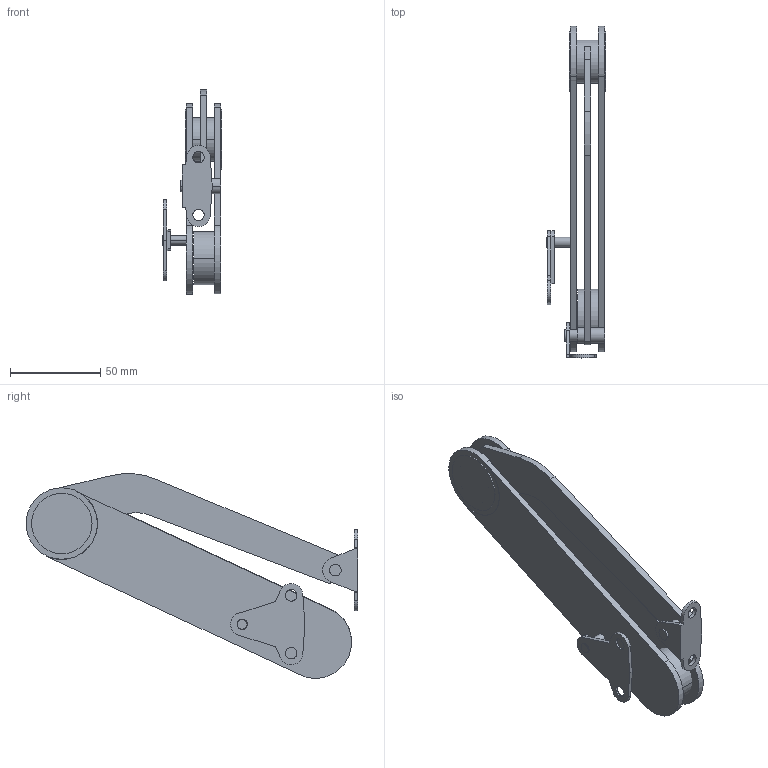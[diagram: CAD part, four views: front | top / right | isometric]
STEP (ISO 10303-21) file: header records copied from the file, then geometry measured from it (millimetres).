
FILE_DESCRIPTION(('STEP AP242'),'1');
FILE_NAME('OPO_50.694.23_volu_schn_3d.stp','2025-11-08T20:21:42',(' '),(' '),'Spatial InterOp 3D',' ',' ');
FILE_SCHEMA(('AP242_MANAGED_MODEL_BASED_3D_ENGINEERING_MIM_LF {1 0 10303 442 1 1 4}'));
Length unit declared in the file: millimetre
Products named in the file (1): 1
Bounding box: 32.8 x 183.78 x 113.23 mm (x, y, z)
Volume: 93901.3 mm3; surface area: 56545.8 mm2
Topology: 15 solids, 15 shells, 164 faces, 1000 edges, 1485 vertices
Faces by surface type: plane 87, cylinder 73, cone 4
Entity records: 13995 total; most frequent: CARTESIAN_POINT 1826, DIRECTION 1543, STYLED_ITEM 795, PRESENTATION_STYLE_ASSIGNMENT 795, COLOUR_RGB 795, LINE 771, VECTOR 771, ORIENTED_EDGE 738
